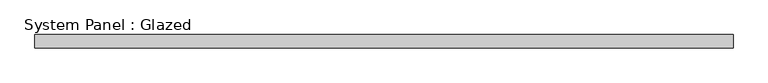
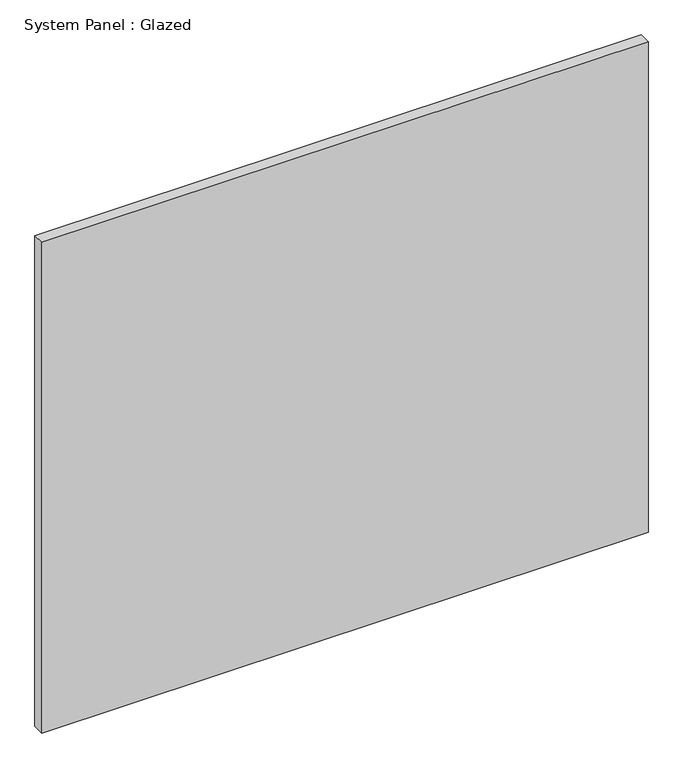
"""IFC4 building model written with IfcOpenShell, lengths in millimetres: plate geometry, System Panel : Glazed."""

from ifc_helpers import new_model, si_unit, origin, origin_with_axes, place, context, project, spatial, polyline, outline, extrude, source, transform, mapped, element, save


def system_panel_glazed_e5c5d69c(model_context):
    return source(origin(), model_context, "Body", "SweptSolid", [
        extrude(outline(polyline([(656.8722222, 19.05), (-656.8722222, 19.05), (-656.8722222, 44.45), (656.8722222, 44.45), (656.8722222, 19.05)])), origin_with_axes(), (0.0, 0.0, 1.0), 1123.95),
    ])


if __name__ == "__main__":
    model = new_model("IFC4")
    model_context = context("Model", 3, world=origin())
    ifc_project = project(units=[si_unit("LENGTHUNIT", "METRE", prefix="MILLI")], contexts=[model_context])
    site = spatial("IfcSite", under=ifc_project)
    building = spatial("IfcBuilding", under=site)
    placement = place(None, origin())
    system_panel_glazed_shape = system_panel_glazed_e5c5d69c(model_context)
    element("IfcPlate", 1, ObjectType="System Panel : Glazed", at=placement, inside=building, context=model_context, shape_type="MappedRepresentation", body=[
        mapped(system_panel_glazed_shape, transform((0.0, 0.0, 0.0), x_axis=(1.0, 0.0, 0.0), y_axis=(0.0, 1.0, 0.0), z_axis=(0.0, 0.0, 1.0))),
    ])
    save(model, "model.ifc")
